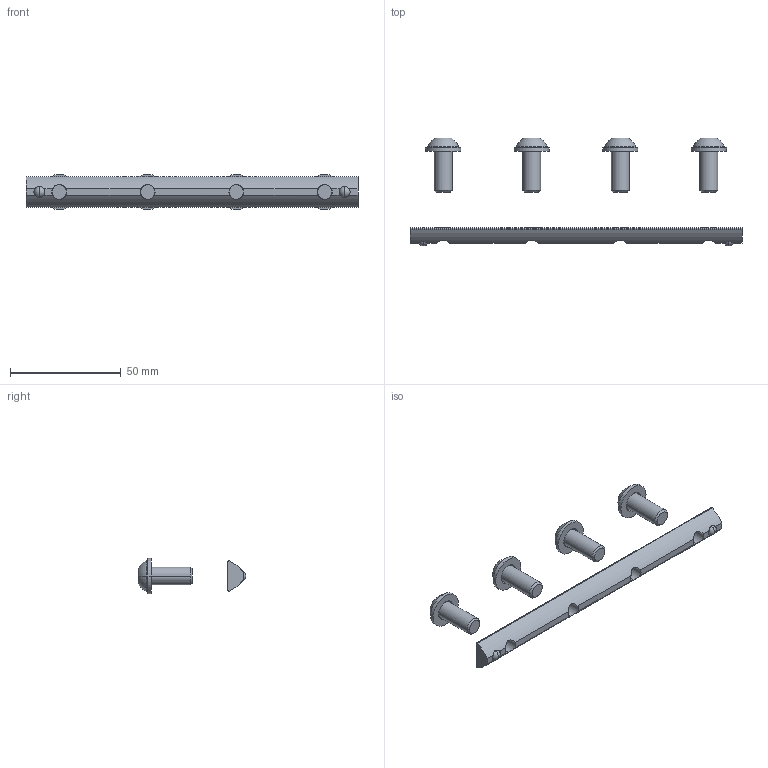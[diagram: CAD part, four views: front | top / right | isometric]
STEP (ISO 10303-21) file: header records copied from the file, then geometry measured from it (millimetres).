
FILE_DESCRIPTION (( 'STEP AP203' ), '1' );
FILE_NAME ('0108BFW160.STEP', '2024-09-04T13:46:22', ( 'Windows-Benutzer' ), ( '' ), 'SwSTEP 2.0', 'SolidWorks 2024', '' );
FILE_SCHEMA (( 'CONFIG_CONTROL_DESIGN' ));
Length unit declared in the file: millimetre
Products named in the file (5): 096000S83-2_Standard<Wie bearbeitet>; 096000S83-3_Standard<Wie bearbeitet>; 096000S83-4_Standard<Wie bearbeitet>; 0108BFW160; 096000S83-1_Standard<Wie bearbeitet>
Assembly tree (11 placements, depth 2):
  0108BFW160
    096000S83-1_Standard<Wie bearbeitet>
    096000S83-2_Standard<Wie bearbeitet>  x2
    096000S83-4_Standard<Wie bearbeitet>  x4
    096000S83-3_Standard<Wie bearbeitet>  x4
Bounding box: 150 x 48.7 x 16 mm (x, y, z)
Volume: 15779.5 mm3; surface area: 11198.8 mm2
Topology: 11 solids, 11 shells, 155 faces, 363 edges, 226 vertices
Faces by surface type: plane 58, cylinder 49, cone 28, torus 16, sphere 4
Entity records: 2936 total; most frequent: CARTESIAN_POINT 638, DIRECTION 357, ORIENTED_EDGE 322, EDGE_CURVE 161, AXIS2_PLACEMENT_3D 143, VERTEX_POINT 104, EDGE_LOOP 71, LINE 71
